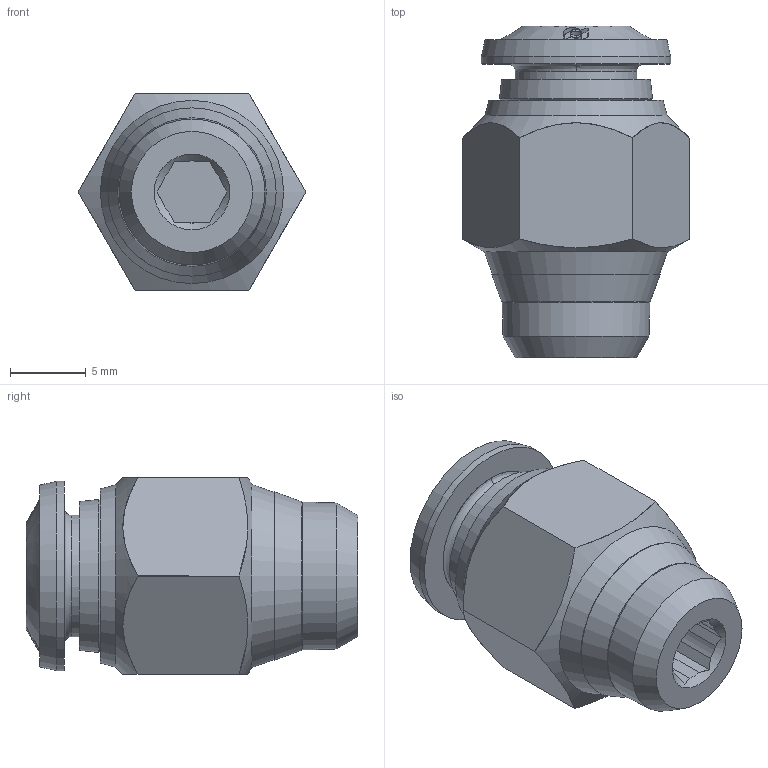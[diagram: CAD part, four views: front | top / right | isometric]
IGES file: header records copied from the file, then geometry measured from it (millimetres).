
Start section: SolidWorks IGES file using analytic representation for surfaces
Global section: file name: K:\Disegni Esecutivi\SERIE 57000\57.000-iges\57000_igs\5700000002A.IGS; native system: SolidWorks 2011; preprocessor: SolidWorks 2011; author: cad05; date: 120621.103046; units: millimetre
Bounding box: 15.01 x 21.9 x 13 mm (x, y, z)
Surface area: 1535.3 mm2 (no closed solid volume)
Topology: 0 solids, 0 shells, 125 faces, 1195 edges, 1163 vertices
Faces by surface type: bspline 82, revolution 43
